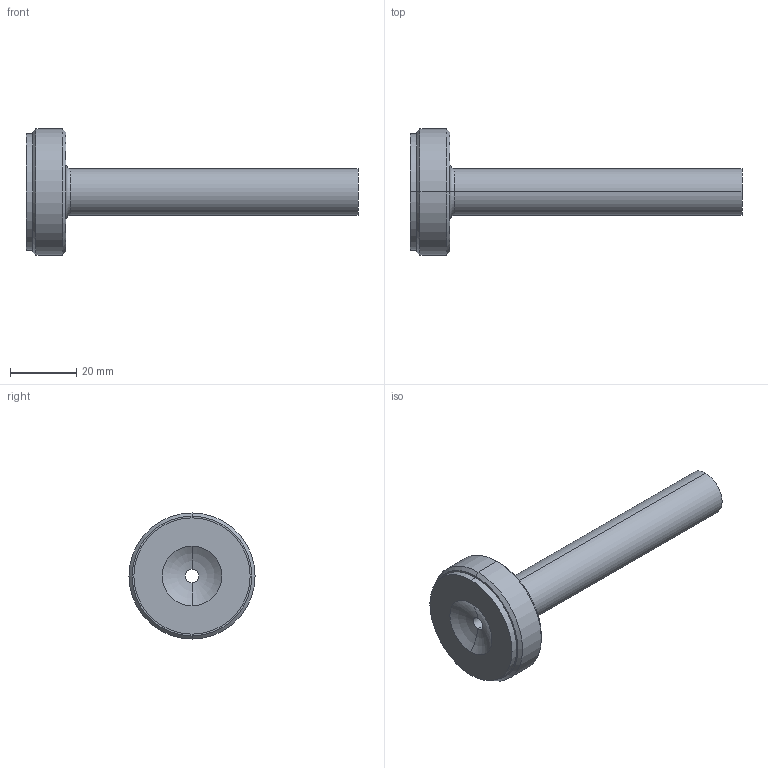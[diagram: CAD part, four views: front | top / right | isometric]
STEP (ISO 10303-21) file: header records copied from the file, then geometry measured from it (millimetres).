
FILE_DESCRIPTION (( 'STEP AP214' ), '1' );
FILE_NAME ('BRB31T-12x100.STEP', '2020-01-30T15:08:37', ( 'August' ), ( '' ), 'SwSTEP 2.0', 'SolidWorks 2018', '' );
FILE_SCHEMA (( 'AUTOMOTIVE_DESIGN' ));
Length unit declared in the file: millimetre
Products named in the file (1): BRB31T-12x100
Bounding box: 100 x 38 x 38 mm (x, y, z)
Volume: 23767.4 mm3; surface area: 9092.7 mm2
Topology: 1 solids, 1 shells, 20 faces, 40 edges, 24 vertices
Faces by surface type: cone 6, cylinder 6, torus 4, plane 4
Entity records: 566 total; most frequent: DIRECTION 110, CARTESIAN_POINT 85, ORIENTED_EDGE 80, AXIS2_PLACEMENT_3D 49, EDGE_CURVE 40, CIRCLE 28, EDGE_LOOP 24, VERTEX_POINT 24
